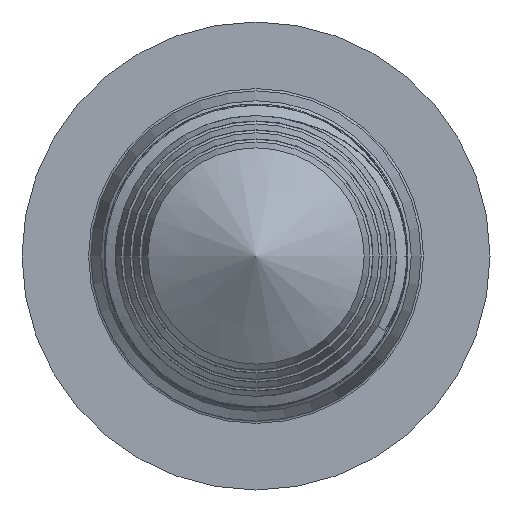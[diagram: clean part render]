
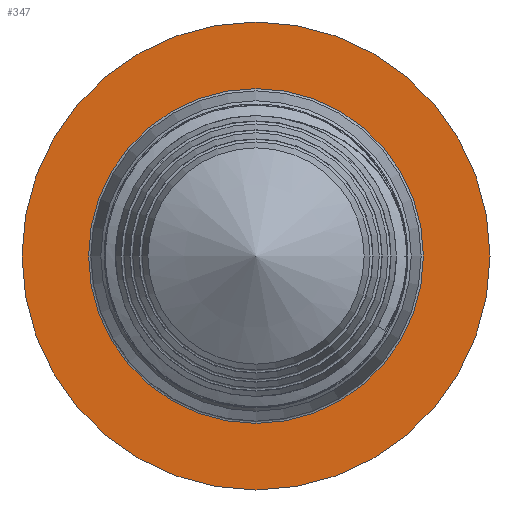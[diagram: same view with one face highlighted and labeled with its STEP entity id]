
A CAD part, left-side view. The second image highlights one B-rep face of the part: STEP entity #347.
In plain terms, the highlighted planar face has unit normal (-1, 0, 0).
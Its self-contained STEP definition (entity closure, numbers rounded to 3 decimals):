
#15=PLANE('',#380);
#22=FACE_BOUND('',#95,.T.);
#64=FACE_OUTER_BOUND('',#94,.T.);
#94=EDGE_LOOP('',(#289));
#95=EDGE_LOOP('',(#290));
#137=CIRCLE('',#379,0.813);
#138=CIRCLE('',#381,0.581);
#189=VERTEX_POINT('',#2068);
#190=VERTEX_POINT('',#2071);
#230=EDGE_CURVE('',#189,#189,#137,.T.);
#231=EDGE_CURVE('',#190,#190,#138,.T.);
#289=ORIENTED_EDGE('',*,*,#230,.T.);
#290=ORIENTED_EDGE('',*,*,#231,.F.);
#347=ADVANCED_FACE('',(#64,#22),#15,.T.);
#379=AXIS2_PLACEMENT_3D('',#2069,#440,#441);
#380=AXIS2_PLACEMENT_3D('',#2070,#442,#443);
#381=AXIS2_PLACEMENT_3D('',#2072,#444,#445);
#440=DIRECTION('center_axis',(-1.,0.,0.));
#441=DIRECTION('ref_axis',(0.,0.,1.));
#442=DIRECTION('center_axis',(-1.,0.,0.));
#443=DIRECTION('ref_axis',(0.,0.,1.));
#444=DIRECTION('center_axis',(-1.,0.,0.));
#445=DIRECTION('ref_axis',(0.,0.,1.));
#2068=CARTESIAN_POINT('',(0.,-0.813,0.));
#2069=CARTESIAN_POINT('Origin',(0.,0.,
0.));
#2070=CARTESIAN_POINT('Origin',(0.,-0.581,
0.));
#2071=CARTESIAN_POINT('',(0.,-0.581,0.));
#2072=CARTESIAN_POINT('Origin',(0.,0.,
0.));
